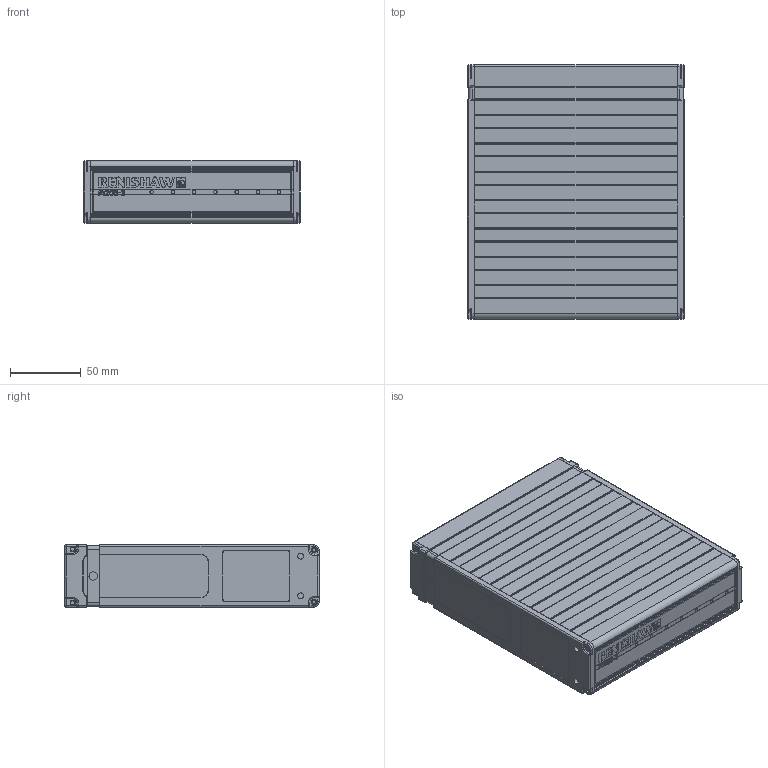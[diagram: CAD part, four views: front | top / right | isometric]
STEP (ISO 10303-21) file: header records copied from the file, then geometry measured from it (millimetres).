
FILE_DESCRIPTION(/* description */ (''),/* implementation_level */ '2;1');
FILE_NAME(/* name */ 'LA-5707-0100-B_PI200-3 ASSEMBLY.stp',/* time_stamp */ '2021-10-04T13:20:55+01:00',/* author */ (''),/* organization */ (''),/* preprocessor_version */ 'ST-DEVELOPER v16.7',/* originating_system */ 'SIEMENS PLM Software NX 1946',/* authorisation */ '');
FILE_SCHEMA (('AUTOMOTIVE_DESIGN { 1 0 10303 214 3 1 1 1 }'));
Length unit declared in the file: millimetre
Products named in the file (1): jh100FB496EAfyhf
Bounding box: 153 x 179.36 x 44.09 mm (x, y, z)
Surface area: 190155.6 mm2 (no closed solid volume)
Topology: 0 solids, 425 shells, 925 faces, 3492 edges, 2963 vertices
Faces by surface type: cylinder 437, plane 358, torus 80, sphere 28, cone 22
Full cylindrical faces by diameter (mm): 2.5 x7, 2.9 x6, 3.2 x8, 3.5 x6, 4.2 x4, 4.7 x1, 6 x2, 8.7 x1, 9 x1, 13 x1, 17 x1
Entity records: 42125 total; most frequent: CARTESIAN_POINT 7908, DIRECTION 6510, ORIENTED_EDGE 4735, EDGE_CURVE 3390, VERTEX_POINT 2955, AXIS2_PLACEMENT_3D 2328, LINE 1854, VECTOR 1854
